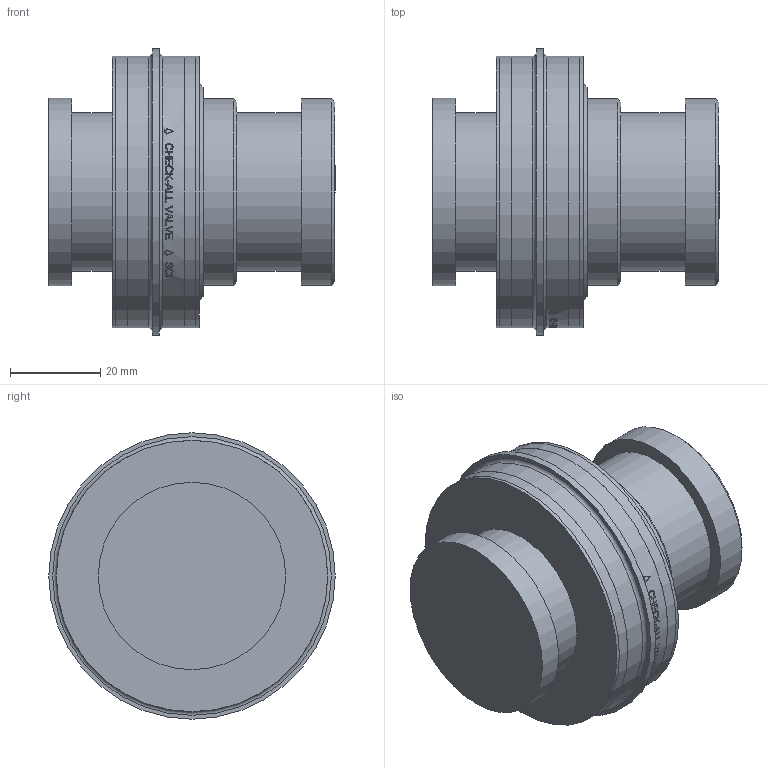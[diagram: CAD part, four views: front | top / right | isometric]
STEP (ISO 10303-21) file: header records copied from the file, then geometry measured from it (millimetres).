
FILE_DESCRIPTION( ( 'Unknown' ), '1' );
FILE_NAME( 'Y:/ENGR/3D Solid Edge Models/SC/SC-PRT/SCL.stp', 'Unknown', ( 'Unknown' ), ( 'Unknown' ), 'PSStep 14.0', 'Unknown', ' ' );
FILE_SCHEMA( ( 'AUTOMOTIVE_DESIGN { 1 0 10303 214 1 1 1 1 }' ) );
Length unit declared in the file: inch
Products named in the file (1): 1
Bounding box: 63.42 x 63.5 x 63.5 mm (x, y, z)
Volume: 106482.9 mm3; surface area: 16730.5 mm2
Topology: 1 solids, 1 shells, 210 faces, 518 edges, 343 vertices
Faces by surface type: plane 119, bspline 49, cylinder 32, cone 8, torus 2
Full cylindrical faces by diameter (mm): 35.179 x2, 60.173 x4, 60.198 x2, 63.5 x1
Entity records: 9325 total; most frequent: CARTESIAN_POINT 3768, ORIENTED_EDGE 996, EDGE_CURVE 498, B_SPLINE_CURVE_WITH_KNOTS 468, DIRECTION 384, VERTEX_POINT 343, EDGE_LOOP 262, FACE_OUTER_BOUND 221
